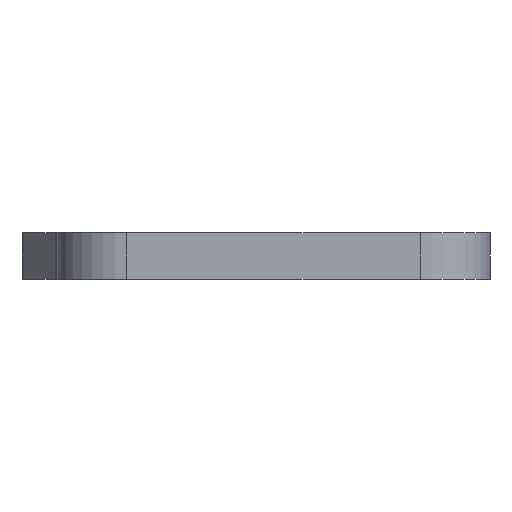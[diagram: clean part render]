
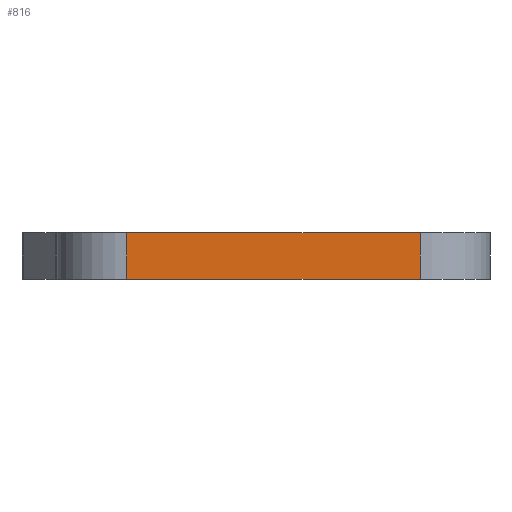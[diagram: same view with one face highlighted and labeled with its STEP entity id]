
A CAD part, left-side view. The second image highlights one B-rep face of the part: STEP entity #816.
In plain terms, the highlighted planar face has unit normal (-1, 0, 0).
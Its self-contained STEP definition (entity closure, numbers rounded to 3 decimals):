
#32=PLANE('',#921);
#60=FACE_OUTER_BOUND('',#114,.T.);
#114=EDGE_LOOP('',(#661,#662,#663,#664));
#151=LINE('',#1220,#231);
#176=LINE('',#1317,#256);
#195=LINE('',#1380,#275);
#197=LINE('',#1383,#277);
#231=VECTOR('',#972,10.);
#256=VECTOR('',#1049,10.);
#275=VECTOR('',#1106,10.);
#277=VECTOR('',#1110,10.);
#352=VERTEX_POINT('',#1217);
#353=VERTEX_POINT('',#1219);
#398=VERTEX_POINT('',#1314);
#399=VERTEX_POINT('',#1316);
#434=EDGE_CURVE('',#353,#352,#151,.T.);
#483=EDGE_CURVE('',#399,#398,#176,.T.);
#515=EDGE_CURVE('',#399,#352,#195,.T.);
#517=EDGE_CURVE('',#353,#398,#197,.T.);
#661=ORIENTED_EDGE('',*,*,#515,.F.);
#662=ORIENTED_EDGE('',*,*,#483,.T.);
#663=ORIENTED_EDGE('',*,*,#517,.F.);
#664=ORIENTED_EDGE('',*,*,#434,.T.);
#816=ADVANCED_FACE('',(#60),#32,.T.);
#921=AXIS2_PLACEMENT_3D('',#1382,#1108,#1109);
#972=DIRECTION('',(0.,-1.,0.));
#1049=DIRECTION('',(0.,1.,0.));
#1106=DIRECTION('',(0.,0.,-1.));
#1108=DIRECTION('center_axis',(-1.,0.,0.));
#1109=DIRECTION('ref_axis',(0.,0.,1.));
#1110=DIRECTION('',(0.,0.,1.));
#1217=CARTESIAN_POINT('',(-550.,6.,0.));
#1219=CARTESIAN_POINT('',(-550.,31.25,0.));
#1220=CARTESIAN_POINT('',(-550.,37.25,0.));
#1314=CARTESIAN_POINT('',(-550.,31.25,4.));
#1316=CARTESIAN_POINT('',(-550.,6.,4.));
#1317=CARTESIAN_POINT('',(-550.,37.25,4.));
#1380=CARTESIAN_POINT('',(-550.,6.,0.));
#1382=CARTESIAN_POINT('Origin',(-550.,0.,0.));
#1383=CARTESIAN_POINT('',(-550.,31.25,0.));
